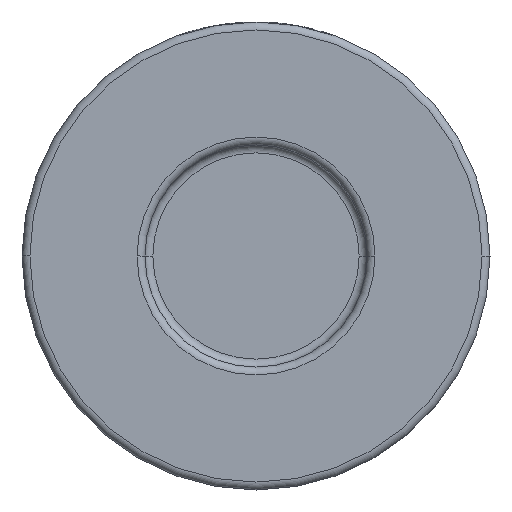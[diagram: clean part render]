
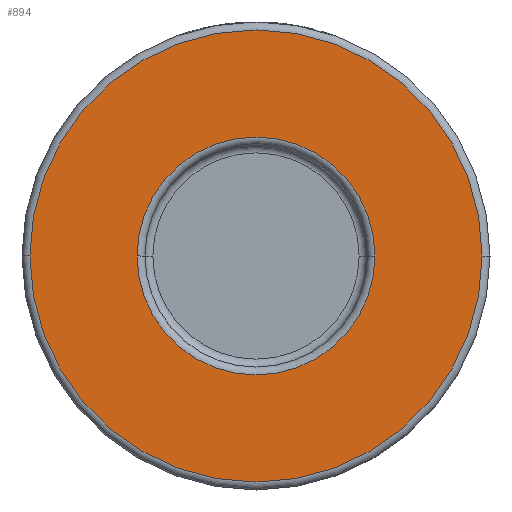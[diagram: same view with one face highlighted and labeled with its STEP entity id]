
A CAD part, front view. The second image highlights one B-rep face of the part: STEP entity #894.
In plain terms, the highlighted planar face has unit normal (0, -1, 0).
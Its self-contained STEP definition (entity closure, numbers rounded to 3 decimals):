
#60 = CARTESIAN_POINT ( 'NONE',  ( 0., -19., 0. ) ) ;
#265 = CARTESIAN_POINT ( 'NONE',  ( 29.5, -19., 0. ) ) ;
#279 = AXIS2_PLACEMENT_3D ( 'NONE', #3362, #1650, #3035 ) ;
#293 = DIRECTION ( 'NONE',  ( 1., 0., 0. ) ) ;
#390 = CARTESIAN_POINT ( 'NONE',  ( 28.5, -19., 0. ) ) ;
#464 = EDGE_LOOP ( 'NONE', ( #1175, #1155 ) ) ;
#569 = CARTESIAN_POINT ( 'NONE',  ( 0., -19., 0. ) ) ;
#623 = EDGE_CURVE ( 'NONE', #1561, #871, #990, .T. ) ;
#701 = AXIS2_PLACEMENT_3D ( 'NONE', #265, #3040, #293 ) ;
#871 = VERTEX_POINT ( 'NONE', #3655 ) ;
#894 = ADVANCED_FACE ( 'NONE', ( #1610, #2001 ), #3368, .T. ) ;
#990 = CIRCLE ( 'NONE', #2369, 15. ) ;
#1009 = AXIS2_PLACEMENT_3D ( 'NONE', #569, #1548, #2911 ) ;
#1155 = ORIENTED_EDGE ( 'NONE', *, *, #623, .T. ) ;
#1164 = VERTEX_POINT ( 'NONE', #3406 ) ;
#1175 = ORIENTED_EDGE ( 'NONE', *, *, #4058, .T. ) ;
#1320 = VERTEX_POINT ( 'NONE', #390 ) ;
#1548 = DIRECTION ( 'NONE',  ( 0., 1., 0. ) ) ;
#1561 = VERTEX_POINT ( 'NONE', #3060 ) ;
#1610 = FACE_BOUND ( 'NONE', #464, .T. ) ;
#1650 = DIRECTION ( 'NONE',  ( 0., -1., 0. ) ) ;
#1730 = CIRCLE ( 'NONE', #1009, 15. ) ;
#1816 = DIRECTION ( 'NONE',  ( 1., 0., 0. ) ) ;
#1921 = ORIENTED_EDGE ( 'NONE', *, *, #2056, .T. ) ;
#2001 = FACE_OUTER_BOUND ( 'NONE', #2817, .T. ) ;
#2056 = EDGE_CURVE ( 'NONE', #1164, #1320, #4241, .T. ) ;
#2369 = AXIS2_PLACEMENT_3D ( 'NONE', #60, #2514, #1816 ) ;
#2456 = AXIS2_PLACEMENT_3D ( 'NONE', #2894, #2813, #3145 ) ;
#2514 = DIRECTION ( 'NONE',  ( 0., 1., 0. ) ) ;
#2676 = CIRCLE ( 'NONE', #279, 28.5 ) ;
#2813 = DIRECTION ( 'NONE',  ( 0., -1., 0. ) ) ;
#2817 = EDGE_LOOP ( 'NONE', ( #4028, #1921 ) ) ;
#2894 = CARTESIAN_POINT ( 'NONE',  ( 0., -19., 0. ) ) ;
#2911 = DIRECTION ( 'NONE',  ( 1., 0., 0. ) ) ;
#3035 = DIRECTION ( 'NONE',  ( 1., 0., 0. ) ) ;
#3040 = DIRECTION ( 'NONE',  ( 0., -1., 0. ) ) ;
#3060 = CARTESIAN_POINT ( 'NONE',  ( -15., -19., 0. ) ) ;
#3145 = DIRECTION ( 'NONE',  ( 1., 0., 0. ) ) ;
#3362 = CARTESIAN_POINT ( 'NONE',  ( 0., -19., 0. ) ) ;
#3368 = PLANE ( 'NONE',  #701 ) ;
#3406 = CARTESIAN_POINT ( 'NONE',  ( -28.5, -19., 0. ) ) ;
#3655 = CARTESIAN_POINT ( 'NONE',  ( 15., -19., 0. ) ) ;
#3852 = EDGE_CURVE ( 'NONE', #1320, #1164, #2676, .T. ) ;
#4028 = ORIENTED_EDGE ( 'NONE', *, *, #3852, .T. ) ;
#4058 = EDGE_CURVE ( 'NONE', #871, #1561, #1730, .T. ) ;
#4241 = CIRCLE ( 'NONE', #2456, 28.5 ) ;
